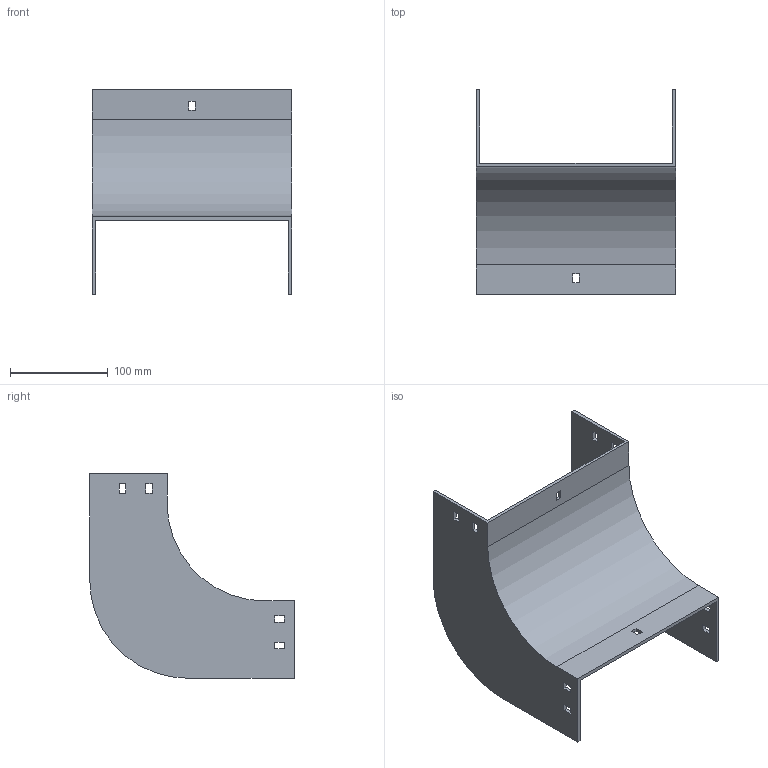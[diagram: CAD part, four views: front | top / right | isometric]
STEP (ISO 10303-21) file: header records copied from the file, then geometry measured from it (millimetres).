
FILE_DESCRIPTION (( 'STEP AP214' ), '1' );
FILE_NAME ('33F1C200.step', '2025-02-21T12:53:07', ( '' ), ( '' ), 'SwSTEP 2.0', 'SolidWorks 2023', '' );
FILE_SCHEMA (( 'AUTOMOTIVE_DESIGN' ));
Length unit declared in the file: millimetre
Products named in the file (1): 33F1C200
Bounding box: 204 x 209 x 209 mm (x, y, z)
Volume: 336669.3 mm3; surface area: 198642.8 mm2
Topology: 1 solids, 1 shells, 58 faces, 168 edges, 112 vertices
Faces by surface type: plane 54, cylinder 4
Entity records: 1943 total; most frequent: CARTESIAN_POINT 339, ORIENTED_EDGE 336, DIRECTION 294, EDGE_CURVE 168, LINE 160, VECTOR 160, VERTEX_POINT 112, EDGE_LOOP 78
